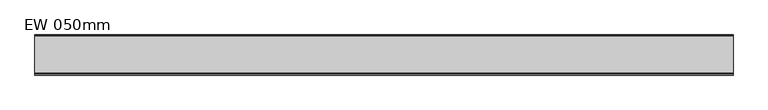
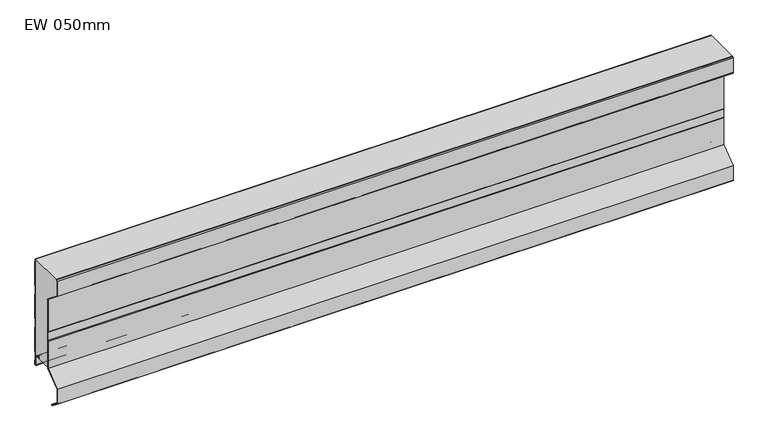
"""IFC4 building model written with IfcOpenShell, lengths in millimetres: plate geometry, KIP-MEX-KC-R19-CP-EW-SL : EW 050mm."""

from ifc_helpers import new_model, si_unit, point, frame, frame_2d, origin, place, context, project, spatial, polyline, circle_curve, trimmed, segment, composite_curve, outline, extrude, source, transform, mapped, element, save


def ew_050mm_9cfe369e(model_context):
    return source(origin(), model_context, "Body", "SweptSolid", [
        extrude(outline(composite_curve([segment(polyline([(-2.2002307, 217.6192114), (-2.2002307, 224.3718713), (-1.2002307, 224.3718713), (-1.2002307, 217.9920919), (-0.3417885, 217.0010442)]), True, "CONTINUOUS"), segment(trimmed(circle_curve(frame_2d((-1.3999972, 216.0844273)), 1.3999972), [point((-0.3417885, 217.0010442))], [point((0.0, 216.0844273))], False, "CARTESIAN"), True, "CONTINUOUS"), segment(polyline([(0.0, 216.0844273), (0.0, 162.3293142)]), True, "CONTINUOUS"), segment(trimmed(circle_curve(frame_2d((-1.3999972, 162.3293142)), 1.3999972), [point((0.0, 162.3293142))], [point((-0.3417885, 161.4126973))], False, "CARTESIAN"), True, "CONTINUOUS"), segment(polyline([(-0.3417885, 161.4126973), (-1.2002307, 160.4216497), (-1.2002307, 141.7922443), (-0.3417885, 140.8011966)]), True, "CONTINUOUS"), segment(trimmed(circle_curve(frame_2d((-1.3999972, 139.8845797)), 1.3999972), [point((-0.3417885, 140.8011966))], [point((0.0, 139.8845797))], False, "CARTESIAN"), True, "CONTINUOUS"), segment(polyline([(0.0, 139.8845797), (0.0, 86.1294666)]), True, "CONTINUOUS"), segment(trimmed(circle_curve(frame_2d((-1.3999972, 86.1294666)), 1.3999972), [point((0.0, 86.1294666))], [point((-0.3417885, 85.2128497))], False, "CARTESIAN"), True, "CONTINUOUS"), segment(polyline([(-0.3417885, 85.2128497), (-1.2002307, 84.2218021), (-1.2002307, 65.5923967), (-0.3417885, 64.601349)]), True, "CONTINUOUS"), segment(trimmed(circle_curve(frame_2d((-1.3999972, 63.6847321)), 1.3999972), [point((-0.3417885, 64.601349))], [point((0.0, 63.6847321))], False, "CARTESIAN"), True, "CONTINUOUS"), segment(polyline([(0.0, 63.6847321), (0.0, 9.929619)]), True, "CONTINUOUS"), segment(trimmed(circle_curve(frame_2d((-1.3999972, 9.929619)), 1.3999972), [point((0.0, 9.929619))], [point((-0.3417885, 9.0130021))], False, "CARTESIAN"), True, "CONTINUOUS"), segment(polyline([(-0.3417885, 9.0130021), (-1.2002307, 8.0219545), (-1.2002307, -10.6074509), (-0.3417885, -11.5984986)]), True, "CONTINUOUS"), segment(trimmed(circle_curve(frame_2d((-1.3999972, -12.5151155)), 1.3999972), [point((-0.3417885, -11.5984986))], [point((0.0, -12.5151155))], False, "CARTESIAN"), True, "CONTINUOUS"), segment(polyline([(0.0, -12.5151155), (0.0, -20.3675812)]), True, "CONTINUOUS"), segment(trimmed(circle_curve(frame_2d((-1.4999795, -20.3675812)), 1.4999795), [point((0.0, -20.3675812))], [point((-1.4999795, -21.8675607))], False, "CARTESIAN"), True, "CONTINUOUS"), segment(polyline([(-1.4999795, -21.8675607), (-2.4999032, -21.8675607)]), True, "CONTINUOUS"), segment(trimmed(circle_curve(frame_2d((-2.4999032, -18.3676454)), 3.4999153), [point((-2.4999032, -21.8675607))], [point((-5.9998185, -18.3676454))], False, "CARTESIAN"), True, "CONTINUOUS"), segment(polyline([(-5.9998185, -18.3676454), (-5.9998185, -0.3670479)]), True, "CONTINUOUS"), segment(trimmed(circle_curve(frame_2d((-8.0001747, -0.3670479)), 2.0003562), [point((-5.9998185, -0.3670479))], [point((-7.9986755, 1.6333077))], True, "CARTESIAN"), True, "CONTINUOUS"), segment(polyline([(-7.9986755, 1.6333077), (-11.5958583, 1.6333077)]), True, "CONTINUOUS"), segment(trimmed(circle_curve(frame_2d((-11.5943838, 4.1340836)), 2.5007763), [point((-11.5958583, 1.6333077))], [point((-14.0574976, 3.7017037))], False, "CARTESIAN"), True, "CONTINUOUS"), segment(polyline([(-14.0574976, 3.7017037), (-14.6793261, 7.2440392), (-13.694386, 7.4169375), (-13.0725576, 3.8746027)]), True, "CONTINUOUS"), segment(trimmed(circle_curve(frame_2d((-11.5943841, 4.1340842)), 1.5007756), [point((-13.0725576, 3.8746027))], [point((-11.5943841, 2.6333086))], True, "CARTESIAN"), True, "CONTINUOUS"), segment(polyline([(-11.5943841, 2.6333086), (-7.9980709, 2.6333089)]), True, "CONTINUOUS"), segment(trimmed(circle_curve(frame_2d((-8.0001719, -0.3670493)), 3.0003589), [point((-7.9980709, 2.6333089))], [point((-4.999813, -0.3670493))], False, "CARTESIAN"), True, "CONTINUOUS"), segment(polyline([(-4.999813, -0.3670493), (-4.999813, -18.3676343)]), True, "CONTINUOUS"), segment(trimmed(circle_curve(frame_2d((-2.4999087, -18.3676343)), 2.4999043), [point((-4.999813, -18.3676343))], [point((-2.4999087, -20.8675386))], True, "CARTESIAN"), True, "CONTINUOUS"), segment(polyline([(-2.4999087, -20.8675386), (-0.9999889, -20.8675386), (-0.9999889, -12.3659771), (-2.2002307, -10.9803314), (-2.2002307, 8.3948349), (-1.0, 9.7804679), (-1.0, 63.8338833), (-2.2002307, 65.2195162), (-2.2002307, 84.5946825), (-1.0, 85.9803155), (-1.0, 140.0337309), (-2.2002307, 141.4193638), (-2.2002307, 160.7945301), (-1.0, 162.1801631), (-1.0, 216.2335785), (-2.2002307, 217.6192114)]), True, "CONTINUOUS")], self_intersect=False)), frame((-740.0, 0.0, 0.0), z_axis=(1.0, 0.0, 0.0), x_axis=(0.0, 1.0, 0.0)), (0.0, 0.0, 1.0), 1480.0),
        extrude(outline(composite_curve([segment(trimmed(circle_curve(frame_2d((-65.7875816, -75.4831487)), 1.5000016), [point((-65.338162, -74.0520558))], [point((-66.714315, -76.6626274))], False, "CARTESIAN"), True, "CONTINUOUS"), segment(polyline([(-66.714315, -76.6626274), (-85.000038, -62.2952701), (-85.000038, -27.2952321), (-50.0, 0.2047977), (-50.0, 62.4737665), (-48.9999989, 63.8880496), (-48.9999989, 82.4599218), (-50.0, 83.8742048), (-50.0, 160.2049713), (-85.000038, 187.7050012), (-85.000038, 222.7050392), (-82.8786153, 224.3718713), (-81.2600249, 224.3718713), (-84.000038, 222.2190039), (-84.000038, 188.1910365), (-49.0, 160.6910066), (-49.0, 84.1920296), (-47.9999989, 82.7777465), (-47.9999989, 63.5702249), (-49.0, 62.1559418), (-49.0, -0.2812376), (-84.000038, -27.7812674), (-84.000038, -61.8092349), (-69.3105941, -73.3509437), (-65.338162, -74.0520558)]), True, "CONTINUOUS")], self_intersect=False)), frame((-740.0, 0.0, 0.0), z_axis=(1.0, 0.0, 0.0), x_axis=(0.0, 1.0, 0.0)), (0.0, 0.0, 1.0), 1480.0),
        extrude(outline(composite_curve([segment(polyline([(-84.000038, 222.2190039), (-81.2600249, 224.3718713), (-2.2002307, 224.3718713), (-2.2002307, 217.6192115), (-1.0, 216.2335785), (-1.0, 162.1801631), (-2.2002307, 160.7945302), (-2.2002307, 141.4193639), (-1.0, 140.0337309), (-1.0, 85.9803155), (-2.2002307, 84.5946826), (-2.2002307, 65.2195163), (-1.0, 63.8338833), (-1.0, 9.7804679), (-2.2002307, 8.394835), (-2.2002307, -10.9803313), (-0.9999916, -12.365974), (-0.9999916, -20.8675386), (-2.4999198, -20.8675386)]), True, "CONTINUOUS"), segment(trimmed(circle_curve(frame_2d((-2.4999198, -18.3676343)), 2.4999043), [point((-2.4999198, -20.8675386))], [point((-4.9998241, -18.3676343))], False, "CARTESIAN"), True, "CONTINUOUS"), segment(polyline([(-4.9998241, -18.3676343), (-4.9998241, -0.3670493)]), True, "CONTINUOUS"), segment(trimmed(circle_curve(frame_2d((-8.0001829, -0.3670493)), 3.0003589), [point((-4.9998241, -0.3670493))], [point((-7.998082, 2.6333088))], True, "CARTESIAN"), True, "CONTINUOUS"), segment(polyline([(-7.998082, 2.6333088), (-11.5943952, 2.6333088)]), True, "CONTINUOUS"), segment(trimmed(circle_curve(frame_2d((-11.5943952, 4.1340843)), 1.5007755), [point((-11.5943952, 2.6333088))], [point((-13.0725686, 3.8746028))], False, "CARTESIAN"), True, "CONTINUOUS"), segment(polyline([(-13.0725686, 3.8746028), (-13.6943971, 7.4169376), (-14.6793372, 7.2440392), (-14.0575086, 3.7017037)]), True, "CONTINUOUS"), segment(trimmed(circle_curve(frame_2d((-11.5943948, 4.1340836)), 2.5007762), [point((-14.0575086, 3.7017037))], [point((-11.5958694, 1.6333077))], True, "CARTESIAN"), True, "CONTINUOUS"), segment(polyline([(-11.5958694, 1.6333077), (-49.0, 1.6333077), (-49.0, 62.1559418), (-47.9999989, 63.5702249), (-47.9999989, 82.7777465), (-49.0, 84.1920296), (-49.0, 160.6910066), (-84.000038, 188.1910365), (-84.000038, 222.2190039)]), True, "CONTINUOUS")], self_intersect=False)), frame((-740.0, 0.0, 0.0), z_axis=(1.0, 0.0, 0.0), x_axis=(0.0, 1.0, 0.0)), (0.0, 0.0, 1.0), 1480.0),
    ])


if __name__ == "__main__":
    model = new_model("IFC4")
    model_context = context("Model", 3, world=origin())
    ifc_project = project(units=[si_unit("LENGTHUNIT", "METRE", prefix="MILLI")], contexts=[model_context])
    site = spatial("IfcSite", under=ifc_project)
    building = spatial("IfcBuilding", under=site)
    placement = place(None, origin())
    ew_050mm_shape = ew_050mm_9cfe369e(model_context)
    element("IfcPlate", 1, ObjectType="KIP-MEX-KC-R19-CP-EW-SL : EW 050mm", at=placement, inside=building, context=model_context, shape_type="MappedRepresentation", body=[
        mapped(ew_050mm_shape, transform((0.0, 0.0, 0.0), x_axis=(1.0, 0.0, 0.0), y_axis=(0.0, 1.0, 0.0), z_axis=(0.0, 0.0, 1.0))),
    ])
    save(model, "model.ifc")
